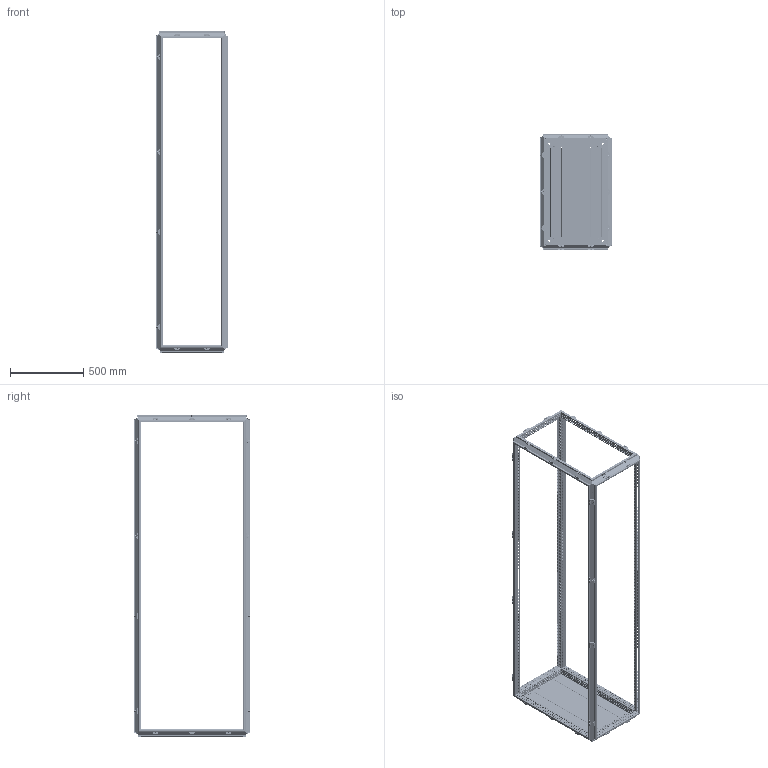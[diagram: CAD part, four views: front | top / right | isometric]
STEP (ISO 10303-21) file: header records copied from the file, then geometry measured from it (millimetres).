
FILE_DESCRIPTION(('STEP AP203'), '1');
FILE_NAME('3000 忺謤僔 捘', '', ('UNSPECIFIED'), ('UNSPECIFIED'), 'C3D Converter', 'C3D Toolkit', '');
FILE_SCHEMA(('CONFIG_CONTROL_DESIGN'));
Length unit declared in the file: millimetre
Products named in the file (12): 3000.220.80.50 СБ; 3000; 3007.75; 3007.200; 3009.04; 3009.04.01; 3009.04.2; 3009.04.01.2
Assembly tree (142 placements, depth 3):
  3000.220.80.50 СБ
    3000
    (unnamed)  x96
    3007.75  x2
    (unnamed)  x8
    3007.200
    3009.04  x10
      3009.04.01
      (unnamed)
      (unnamed)
    3009.04.2  x15
      3009.04.01.2
      (unnamed)
      (unnamed)
Bounding box: 497 x 797 x 2198.5 mm (x, y, z)
Volume: 3960195.8 mm3; surface area: 5281035 mm2
Topology: 239 solids, 239 shells, 18001 faces, 50525 edges, 33366 vertices
Faces by surface type: plane 12647, cylinder 4430, cone 636, torus 240, bspline 48
Full cylindrical faces by diameter (mm): 4.134 x136, 4.5 x2040, 4.8 x8, 5 x146, 5.8 x40, 6.8 x192, 7 x96, 7.5 x50, 8 x96, 9.2 x50, 10.106 x8, 14 x4
Entity records: 407108 total; most frequent: CARTESIAN_POINT 74021, ORIENTED_EDGE 65606, DIRECTION 62021, EDGE_CURVE 32803, LINE 27055, VECTOR 27055, VERTEX_POINT 23142, EDGE_LOOP 22457
